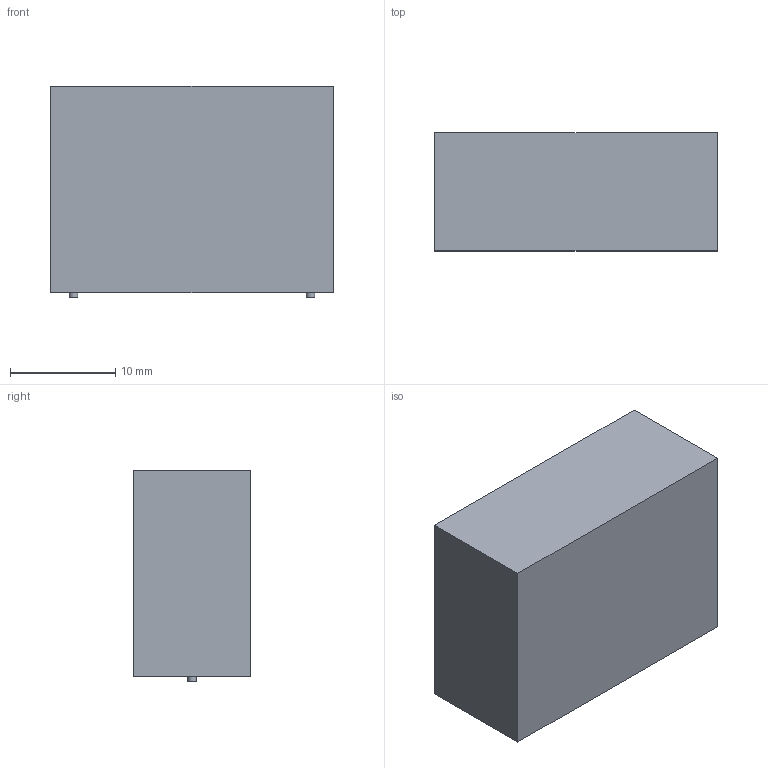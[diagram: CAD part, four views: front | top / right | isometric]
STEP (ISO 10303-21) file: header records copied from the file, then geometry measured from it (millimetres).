
FILE_DESCRIPTION(('Open CASCADE Model'),'2;1');
FILE_NAME('Open CASCADE Shape Model','2026-09-26T00:00:00',('Author'),( 'Open CASCADE'),'Open CASCADE STEP processor 7.9','Open CASCADE 7.9' ,'Unknown');
FILE_SCHEMA(('AUTOMOTIVE_DESIGN { 1 0 10303 214 1 1 1 1 }'));
Length unit declared in the file: millimetre
Products named in the file (4): Open CASCADE STEP translator 7.9 5; Open CASCADE STEP translator 7.9 5.1; Open CASCADE STEP translator 7.9 5.2; Open CASCADE STEP translator 7.9 5.3
Assembly tree (3 placements, depth 2):
  Open CASCADE STEP translator 7.9 5
    Open CASCADE STEP translator 7.9 5.1
    Open CASCADE STEP translator 7.9 5.2
    Open CASCADE STEP translator 7.9 5.3
Bounding box: 26.8 x 11.2 x 20.1 mm (x, y, z)
Volume: 5883.8 mm3; surface area: 2095.4 mm2
Topology: 3 solids, 3 shells, 12 faces, 18 edges, 12 vertices
Faces by surface type: plane 10, cylinder 2
Full cylindrical faces by diameter (mm): 0.8 x2
Entity records: 560 total; most frequent: DIRECTION 90, CARTESIAN_POINT 82, LINE 46, VECTOR 46, ORIENTED_EDGE 36, PCURVE 36, DEFINITIONAL_REPRESENTATION 36, AXIS2_PLACEMENT_3D 20
